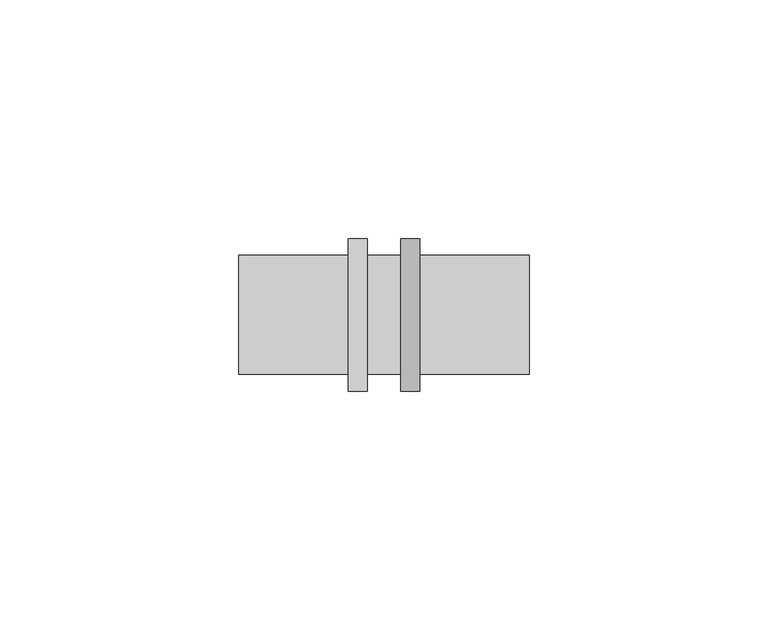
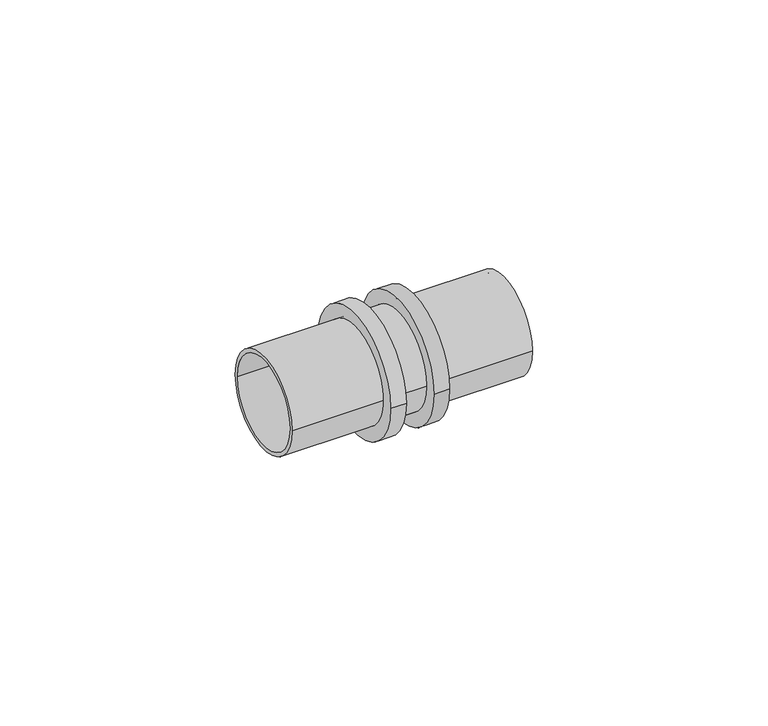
"""IFC4 building model written with IfcOpenShell, lengths in millimetres: pipe fitting geometry, БИР ПЕКС_НПР_Муфта прямая : Муфта соединительная прямая."""

from ifc_helpers import new_model, si_unit, point, frame, origin, origin_2d, place, context, project, spatial, circle_curve, trimmed, segment, composite_curve, outline, extrude, source, transform, mapped, element, save


def pipe_fitting_1861a494(model_context):
    return source(origin(), model_context, "Body", "SweptSolid", [
        extrude(outline(composite_curve([segment(trimmed(circle_curve(origin_2d(), 12.5), [point((-12.5, 0.0))], [point((12.5, 0.0))], False, "CARTESIAN"), True, "CONTINUOUS"), segment(trimmed(circle_curve(origin_2d(), 12.5), [point((12.5, 0.0))], [point((-12.5, 0.0))], False, "CARTESIAN"), True, "CONTINUOUS")], self_intersect=False), holes=[composite_curve([segment(trimmed(circle_curve(origin_2d(), 11.5), [point((-11.5, 0.0))], [point((11.5, 0.0))], True, "CARTESIAN"), True, "CONTINUOUS"), segment(trimmed(circle_curve(origin_2d(), 11.5), [point((11.5, 0.0))], [point((-11.5, 0.0))], True, "CARTESIAN"), True, "CONTINUOUS")], self_intersect=False)]), frame((-30.5, 0.0, 0.0), z_axis=(1.0, 0.0, 0.0), x_axis=(0.0, 1.0, 0.0)), (0.0, 0.0, 1.0), 61.0),
        extrude(outline(composite_curve([segment(trimmed(circle_curve(origin_2d(), 16.0), [point((-16.0, 0.0))], [point((16.0, 0.0))], False, "CARTESIAN"), True, "CONTINUOUS"), segment(trimmed(circle_curve(origin_2d(), 16.0), [point((16.0, 0.0))], [point((-16.0, 0.0))], False, "CARTESIAN"), True, "CONTINUOUS")], self_intersect=False), holes=[composite_curve([segment(trimmed(circle_curve(origin_2d(), 12.5), [point((-12.5, 0.0))], [point((12.5, 0.0))], True, "CARTESIAN"), True, "CONTINUOUS"), segment(trimmed(circle_curve(origin_2d(), 12.5), [point((12.5, 0.0))], [point((-12.5, 0.0))], True, "CARTESIAN"), True, "CONTINUOUS")], self_intersect=False)]), frame((3.5, 0.0, 0.0), z_axis=(1.0, 0.0, 0.0), x_axis=(0.0, 1.0, 0.0)), (0.0, 0.0, 1.0), 4.0),
        extrude(outline(composite_curve([segment(trimmed(circle_curve(origin_2d(), 16.0), [point((-16.0, 0.0))], [point((16.0, 0.0))], False, "CARTESIAN"), True, "CONTINUOUS"), segment(trimmed(circle_curve(origin_2d(), 16.0), [point((16.0, 0.0))], [point((-16.0, 0.0))], False, "CARTESIAN"), True, "CONTINUOUS")], self_intersect=False), holes=[composite_curve([segment(trimmed(circle_curve(origin_2d(), 12.5), [point((-12.5, 0.0))], [point((12.5, 0.0))], True, "CARTESIAN"), True, "CONTINUOUS"), segment(trimmed(circle_curve(origin_2d(), 12.5), [point((12.5, 0.0))], [point((-12.5, 0.0))], True, "CARTESIAN"), True, "CONTINUOUS")], self_intersect=False)]), frame((-7.5, 0.0, 0.0), z_axis=(1.0, 0.0, 0.0), x_axis=(0.0, 1.0, 0.0)), (0.0, 0.0, 1.0), 4.0),
        extrude(outline(composite_curve([segment(trimmed(circle_curve(origin_2d(), 12.5), [point((-12.5, 0.0))], [point((12.5, 0.0))], False, "CARTESIAN"), True, "CONTINUOUS"), segment(trimmed(circle_curve(origin_2d(), 12.5), [point((12.5, 0.0))], [point((-12.5, 0.0))], False, "CARTESIAN"), True, "CONTINUOUS")], self_intersect=False)), frame((-7.5, 0.0, 0.0), z_axis=(1.0, 0.0, 0.0), x_axis=(0.0, 1.0, 0.0)), (0.0, 0.0, 1.0), 15.0),
    ])


if __name__ == "__main__":
    model = new_model("IFC4")
    model_context = context("Model", 3, world=origin())
    ifc_project = project(units=[si_unit("LENGTHUNIT", "METRE", prefix="MILLI")], contexts=[model_context])
    site = spatial("IfcSite", under=ifc_project)
    building = spatial("IfcBuilding", under=site)
    placement = place(None, origin())
    pipe_fitting_shape = pipe_fitting_1861a494(model_context)
    element("IfcPipeFitting", 1, ObjectType="БИР ПЕКС_НПР_Муфта прямая : Муфта соединительная прямая", at=placement, inside=building, context=model_context, shape_type="MappedRepresentation", body=[
        mapped(pipe_fitting_shape, transform((0.0, 0.0, 0.0), x_axis=(1.0, 0.0, 0.0), y_axis=(0.0, 1.0, 0.0), z_axis=(0.0, 0.0, 1.0))),
    ])
    save(model, "model.ifc")
